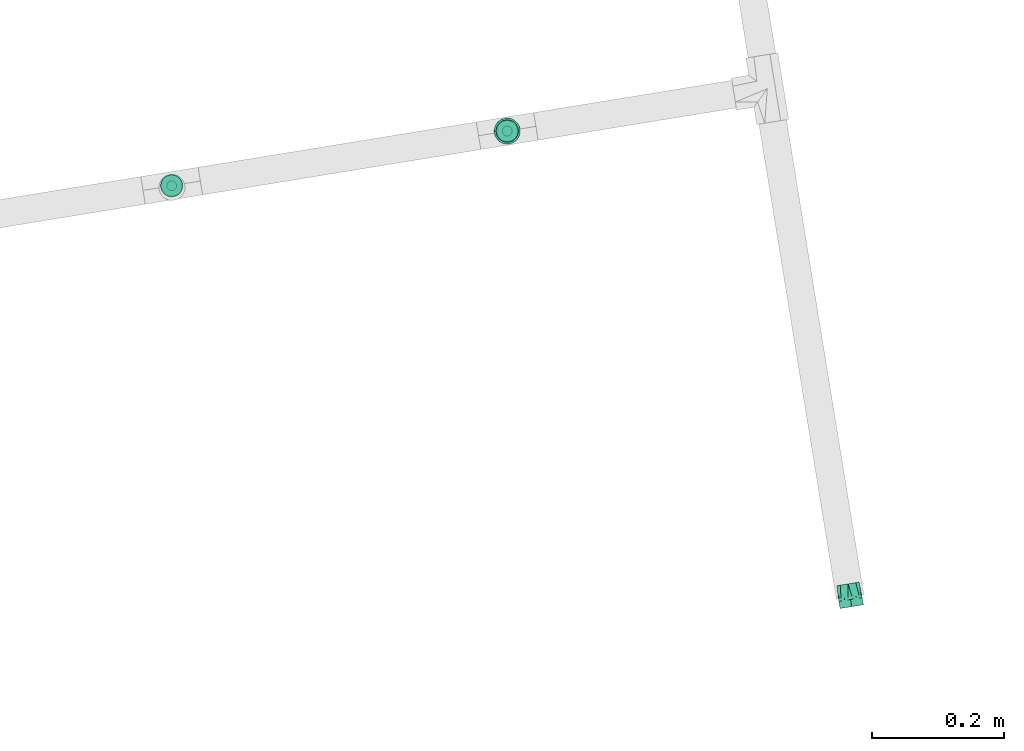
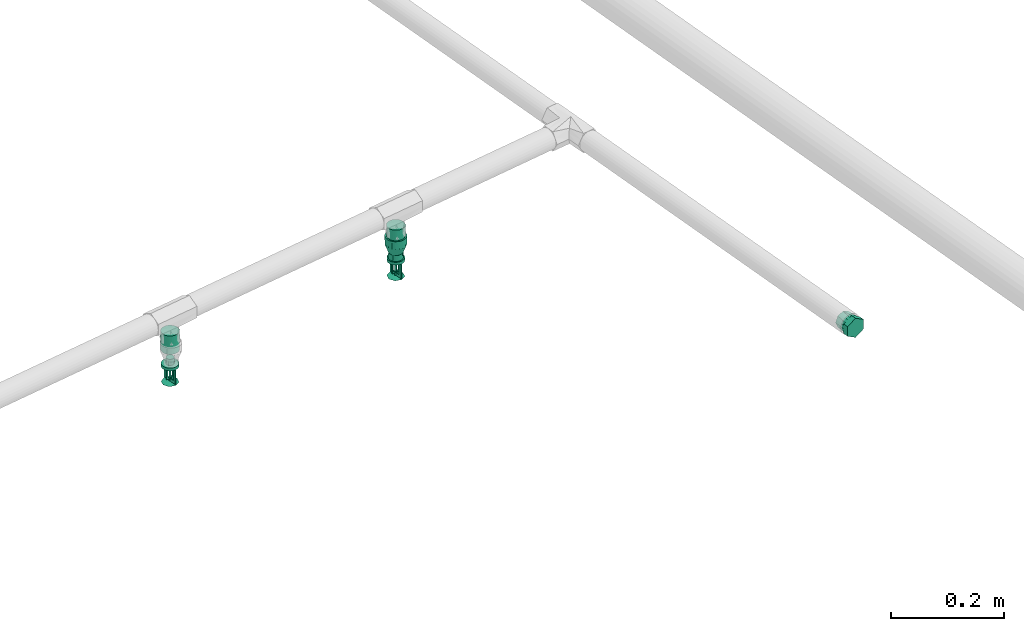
# One storey, part 29 of 46: 2 flow fittings, 2 flow segments, 2 flow terminals.
"""IFC2X3 building model written with IfcOpenShell, lengths in millimetres."""

import ifcopenshell
import ifcopenshell.guid

model = None  # the IFC model being written
_history = None  # IfcOwnerHistory: only IFC2X3 demands one
_inside = {}  # id of a spatial element -> (the spatial element, [elements in it])
_under = {}  # id of a project, library or spatial element -> (it, [spatial elements below it])
_declared = {}  # id of a project -> (the project, [libraries it declares])
_typed = {}  # id of a type object -> (the type object, [elements of that type])
_made_of = {}  # id of a material, layer set ... -> (it, [elements and type objects made of it])


def new_model(schema):
    """Start an empty IFC model of exactly this schema.

    Asked for "IFC4X3", IfcOpenShell would pick the latest addendum, in which some entities
    have other attributes; the version numbers below select the first issue.
    IFC2X3 requires an IfcOwnerHistory on every rooted entity: one is made here for all.
    """
    global model, _history
    if schema == "IFC4X3":
        model = ifcopenshell.file(schema_version=(4, 3, 0, 0))
    else:
        model = ifcopenshell.file(schema=schema)
    _inside.clear()
    _under.clear()
    _declared.clear()
    _typed.clear()
    _made_of.clear()
    _history = None
    if model.schema == "IFC2X3":
        org = make("IfcOrganization", Name="unknown")
        user = make(
            "IfcPersonAndOrganization",
            ThePerson=make("IfcPerson", FamilyName="unknown"),
            TheOrganization=org,
        )
        app = make(
            "IfcApplication",
            ApplicationDeveloper=org,
            Version="unknown",
            ApplicationFullName="unknown",
            ApplicationIdentifier="unknown",
        )
        _history = make(
            "IfcOwnerHistory",
            OwningUser=user,
            OwningApplication=app,
            ChangeAction="ADDED",
            CreationDate=0,
        )
    return model


def make(cls, **values):
    """One entity of the class cls with the attributes given. An attribute that is None is left unset."""
    return model.create_entity(
        cls, **{name: value for name, value in values.items() if value is not None}
    )


def entity(cls, *values):
    """Any entity or typed value of the class cls, its attributes in the order of the schema. None: left unset."""
    e = model.create_entity(cls)
    for i, value in enumerate(values):
        if value is not None:
            e[i] = value
    return e


def rooted(cls, **values):
    """An entity with a GlobalId (a new one), such as an element, a storey or a relation."""
    return make(cls, GlobalId=ifcopenshell.guid.new(), OwnerHistory=_history, **values)


def si_unit(unit_type, name, prefix=None):
    """IfcSIUnit, for example si_unit("LENGTHUNIT", "METRE", prefix="MILLI")."""
    return make("IfcSIUnit", UnitType=unit_type, Prefix=prefix, Name=name)


def converted_unit(unit_type, name, factor, base, dimensions=None, offset=None):
    """IfcConversionBasedUnit, such as the inch: factor (a typed value) times the base unit."""
    return make(
        "IfcConversionBasedUnit"
        if offset is None
        else "IfcConversionBasedUnitWithOffset",
        ConversionOffset=offset,
        Dimensions=None
        if dimensions is None
        else entity("IfcDimensionalExponents", *dimensions),
        UnitType=unit_type,
        Name=name,
        ConversionFactor=make(
            "IfcMeasureWithUnit", ValueComponent=factor, UnitComponent=base
        ),
    )


def derived_unit(unit_type, elements):
    """IfcDerivedUnit: a product of units, each with its exponent."""
    return make(
        "IfcDerivedUnit",
        Elements=[
            make("IfcDerivedUnitElement", Unit=unit, Exponent=power)
            for unit, power in elements
        ],
        UnitType=unit_type,
    )


def assignment(units):
    """IfcUnitAssignment: the units of a project."""
    return None if units is None else make("IfcUnitAssignment", Units=units)


def point(xyz):
    """IfcCartesianPoint."""
    return None if xyz is None else make("IfcCartesianPoint", Coordinates=xyz)


def direction(xyz):
    """IfcDirection."""
    return None if xyz is None else make("IfcDirection", DirectionRatios=xyz)


def frame(location, z_axis=None, x_axis=None):
    """IfcAxis2Placement3D, a coordinate frame: its origin and axes. An axis left out is left unset."""
    return make(
        "IfcAxis2Placement3D",
        Location=point(location),
        Axis=direction(z_axis),
        RefDirection=direction(x_axis),
    )


def frame_2d(location, x_axis=None):
    """IfcAxis2Placement2D, a coordinate frame in the plane: its origin and x axis."""
    return make(
        "IfcAxis2Placement2D", Location=point(location), RefDirection=direction(x_axis)
    )


def origin():
    """The frame at (0, 0, 0) with its axes left unset."""
    return frame((0.0, 0.0, 0.0))


def origin_with_axes():
    """The frame at (0, 0, 0) with the z axis (0, 0, 1) and the x axis (1, 0, 0) written out."""
    return frame((0.0, 0.0, 0.0), z_axis=(0.0, 0.0, 1.0), x_axis=(1.0, 0.0, 0.0))


def origin_2d_with_axis():
    """The frame at (0, 0) in the plane with the x axis (1, 0) written out."""
    return frame_2d((0.0, 0.0), x_axis=(1.0, 0.0))


def place(relative_to, where):
    """IfcLocalPlacement: puts the frame where relative to a parent placement (None: the world)."""
    return make(
        "IfcLocalPlacement", PlacementRelTo=relative_to, RelativePlacement=where
    )


def context(
    kind, dimensions, precision=None, world=None, true_north=None, identifier=None
):
    """IfcGeometricRepresentationContext, for example the 3D "Model" context."""
    return make(
        "IfcGeometricRepresentationContext",
        ContextIdentifier=identifier,
        ContextType=kind,
        CoordinateSpaceDimension=dimensions,
        Precision=precision,
        WorldCoordinateSystem=world,
        TrueNorth=true_north,
    )


def subcontext(parent, identifier, kind, view, scale=None):
    """IfcGeometricRepresentationSubContext, for example "Body" below "Model"."""
    return make(
        "IfcGeometricRepresentationSubContext",
        ContextIdentifier=identifier,
        ContextType=kind,
        ParentContext=parent,
        TargetScale=scale,
        TargetView=view,
    )


def project(units=None, contexts=None):
    """IfcProject with its units and contexts."""
    return rooted(
        "IfcProject",
        Name="project",
        RepresentationContexts=contexts,
        UnitsInContext=assignment(units),
    )


def spatial(cls, under=None, at=None, **own):
    """A site, building, storey or space (cls), placed at a placement, below another one or the project."""
    s = rooted(cls, ObjectPlacement=at, **own)
    if under is not None:
        _under.setdefault(under.id(), (under, []))[1].append(s)
    return s


def profile(cls, at=None, kind="AREA", **sizes):
    """A parametric profile (cls). Its sizes go by their IFC names, for example OverallWidth=200.0."""
    return make(cls, ProfileType=kind, Position=at, **sizes)


def circle(**sizes):
    """IfcCircleProfileDef."""
    return profile("IfcCircleProfileDef", **sizes)


def extrude(swept, where, along, depth):
    """IfcExtrudedAreaSolid: the profile swept, set in the frame where, extruded along a direction by depth."""
    return make(
        "IfcExtrudedAreaSolid",
        SweptArea=swept,
        Position=where,
        ExtrudedDirection=direction(along),
        Depth=depth,
    )


def faces_of(points, faces, orient=None, outer=None):
    """IfcFace entities. A face is a list of loops; a loop is a list of indices into points, from 0.

    orient and outer hold one flag for each loop. By default every Orientation is true, the
    first loop of a face is its IfcFaceOuterBound and the others are IfcFaceBound.
    """
    made = []
    for i, loops in enumerate(faces):
        bounds = []
        for j, loop in enumerate(loops):
            is_outer = j == 0 if outer is None else outer[i][j]
            bounds.append(
                make(
                    "IfcFaceOuterBound" if is_outer else "IfcFaceBound",
                    Bound=make("IfcPolyLoop", Polygon=[points[k] for k in loop]),
                    Orientation=True if orient is None else orient[i][j],
                )
            )
        made.append(make("IfcFace", Bounds=bounds))
    return made


def faceted_brep(points, faces, orient=None, outer=None, voids=None):
    """IfcFacetedBrep: a solid bounded by flat faces; with voids (closed shells), ...WithVoids."""
    shared = [point(p) for p in points]
    hull = make("IfcClosedShell", CfsFaces=faces_of(shared, faces, orient, outer))
    if voids is None:
        return make("IfcFacetedBrep", Outer=hull)
    return make(
        "IfcFacetedBrepWithVoids",
        Outer=hull,
        Voids=[
            make(cls, CfsFaces=faces_of(shared, fs, o, b)) for cls, fs, o, b in voids
        ],
    )


def shape(context_of_items, identifier, shape_type, items):
    """IfcShapeRepresentation: the items that make up one representation, for example the "Body"."""
    return make(
        "IfcShapeRepresentation",
        ContextOfItems=context_of_items,
        RepresentationIdentifier=identifier,
        RepresentationType=shape_type,
        Items=items,
    )


def source(mapping_origin, context_of_items, identifier, shape_type, items):
    """IfcRepresentationMap: a shape defined once, which mapped items show again and again."""
    return make(
        "IfcRepresentationMap",
        MappingOrigin=mapping_origin,
        MappedRepresentation=shape(context_of_items, identifier, shape_type, items),
    )


def transform(
    local_origin,
    x_axis=None,
    y_axis=None,
    z_axis=None,
    scale=None,
    scale2=None,
    scale3=None,
    uniform=True,
):
    """IfcCartesianTransformationOperator3D, or its non-uniform kind. x_axis, y_axis, z_axis: its Axis1, 2, 3."""
    if uniform:
        return make(
            "IfcCartesianTransformationOperator3D",
            Axis1=direction(x_axis),
            Axis2=direction(y_axis),
            LocalOrigin=point(local_origin),
            Scale=scale,
            Axis3=direction(z_axis),
        )
    return make(
        "IfcCartesianTransformationOperator3DnonUniform",
        Axis1=direction(x_axis),
        Axis2=direction(y_axis),
        LocalOrigin=point(local_origin),
        Scale=scale,
        Axis3=direction(z_axis),
        Scale2=scale2,
        Scale3=scale3,
    )


def mapped(mapping_source, mapping_target):
    """IfcMappedItem: shows the shape of a source again, moved by a transform."""
    return make(
        "IfcMappedItem", MappingSource=mapping_source, MappingTarget=mapping_target
    )


def material(Name=None, Category=None):
    """IfcMaterial."""
    return make("IfcMaterial", Name=Name, Category=Category)


def made_of(thing, what):
    """Note that an element or type object is made of a material, layer set ...; save() writes the relation."""
    if what is not None:
        _made_of.setdefault(what.id(), (what, []))[1].append(thing)
    return thing


def type_object(cls, material=None, **own):
    """A type object (cls), such as IfcWallType, which elements share."""
    return made_of(rooted(cls, **own), material)


def element(
    cls,
    number,
    at=None,
    inside=None,
    cuts=None,
    type_object=None,
    material=None,
    context=None,
    identifier="Body",
    shape_type=None,
    held_by="IfcProductDefinitionShape",
    body=None,
    shapes=None,
    **own,
):
    """One element of the class cls, such as IfcWall. Its Tag is "e" and its number.

    at: its placement. inside: the storey or other place that contains it. cuts: it is an
    opening in that element (IfcRelVoidsElement). A single representation is given by context,
    identifier, shape_type and body (its items); several are given by shapes. held_by: the class
    of the entity that holds the representations. save() writes the other relations.
    """
    e = rooted(cls, Tag="e%d" % number, ObjectPlacement=at, **own)
    if body is not None:
        shapes = [shape(context, identifier, shape_type, body)]
    if shapes is not None:
        e.Representation = make(held_by, Representations=shapes)
    if inside is not None:
        _inside.setdefault(inside.id(), (inside, []))[1].append(e)
    if cuts is not None:
        rooted(
            "IfcRelVoidsElement", RelatingBuildingElement=cuts, RelatedOpeningElement=e
        )
    if type_object is not None:
        _typed.setdefault(type_object.id(), (type_object, []))[1].append(e)
    return made_of(e, material)


def aggregate(whole, parts):
    """IfcRelAggregates: a whole, such as a stair, and the parts it consists of."""
    return rooted("IfcRelAggregates", RelatingObject=whole, RelatedObjects=parts)


def save(model, path):
    """Write the relations noted so far, then the file.

    IfcRelAggregates (storeys below a building ...), IfcRelContainedInSpatialStructure (elements
    in a storey), IfcRelDefinesByType, IfcRelAssociatesMaterial and IfcRelDeclares: one each for
    every whole, place, type object, material and project.
    """
    for whole, parts in _under.values():
        aggregate(whole, parts)
    for where, things in _inside.values():
        rooted(
            "IfcRelContainedInSpatialStructure",
            RelatedElements=things,
            RelatingStructure=where,
        )
    for kind, things in _typed.values():
        rooted("IfcRelDefinesByType", RelatedObjects=things, RelatingType=kind)
    for what, things in _made_of.values():
        rooted("IfcRelAssociatesMaterial", RelatedObjects=things, RelatingMaterial=what)
    for by, libraries in _declared.values():
        rooted("IfcRelDeclares", RelatingContext=by, RelatedDefinitions=libraries)
    model.write(path)


model = new_model("IFC2X3")

# Units and contexts
model_context = context("Model", 3, precision=0.01, world=origin(), true_north=direction((6.12323399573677e-17, 1.0)))
plan_context = context("Plan", 3, precision=1e-05, world=origin_with_axes())
body_context = subcontext(model_context, "Body", "Model", "MODEL_VIEW")
ifc_project = project(units=[converted_unit("PLANEANGLEUNIT", "DEGREE", entity("IfcPositiveLengthMeasure", 0.0174532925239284), si_unit("PLANEANGLEUNIT", "RADIAN"), dimensions=[0, 0, 0, 0, 0, 0, 0]), si_unit("AREAUNIT", "SQUARE_METRE"), si_unit("LENGTHUNIT", "METRE", prefix="MILLI"), si_unit("MASSUNIT", "GRAM", prefix="KILO"), si_unit("POWERUNIT", "WATT"), si_unit("PRESSUREUNIT", "PASCAL", prefix="KILO"), si_unit("FORCEUNIT", "NEWTON", prefix="KILO"), si_unit("ELECTRICVOLTAGEUNIT", "VOLT"), si_unit("ELECTRICCURRENTUNIT", "AMPERE"), si_unit("THERMODYNAMICTEMPERATUREUNIT", "DEGREE_CELSIUS"), si_unit("TIMEUNIT", "SECOND"), si_unit("VOLUMEUNIT", "CUBIC_METRE"), derived_unit("LINEARVELOCITYUNIT", [(si_unit("LENGTHUNIT", "METRE"), 1), (si_unit("TIMEUNIT", "SECOND"), -1)]), derived_unit("VOLUMETRICFLOWRATEUNIT", [(si_unit("VOLUMEUNIT", "CUBIC_METRE"), 1), (si_unit("TIMEUNIT", "SECOND"), -1)]), derived_unit("THERMALTRANSMITTANCEUNIT", [(si_unit("POWERUNIT", "WATT"), 1), (si_unit("THERMODYNAMICTEMPERATUREUNIT", "KELVIN"), -1), (si_unit("AREAUNIT", "SQUARE_METRE"), -1)]), derived_unit("SOUNDPRESSUREUNIT", [(si_unit("PRESSUREUNIT", "PASCAL"), 1)])], contexts=[model_context, plan_context])

# Site, building, storey
site_placement = place(None, frame((-3.09682673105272e-06, 1.93776733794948e-05, 0.0), z_axis=(0.0, 0.0, 1.0), x_axis=(-0.160806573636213, 0.986985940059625, 0.0)))
site = spatial("IfcSite", under=ifc_project, at=site_placement, Name="Default", CompositionType="ELEMENT")
building_placement = place(site_placement, frame((0.0, 0.0, 0.0), z_axis=(0.0, 0.0, 1.0), x_axis=(1.0, -2.77555756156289e-17, 0.0)))
building = spatial("IfcBuilding", under=site, at=building_placement, Name="Bygning (endres i Project Information)", CompositionType="ELEMENT")
storey_placement = place(building_placement, frame((0.0, 0.0, 51360.0000000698), z_axis=(0.0, 0.0, 1.0), x_axis=(1.0, -2.77555756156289e-17, 0.0)))
storey = spatial("IfcBuildingStorey", under=building, at=storey_placement, Name="H01-Nivå D+0,36", CompositionType="ELEMENT", Elevation=51360.0000000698)

# Flow fittings
ifc_material = material(Name="3320.001")
pipe_fitting_type_1 = type_object("IfcPipeFittingType", Name="RS_53_PIF_UN_Hexagon-Plug-EN10241_MC_gen:RS_53_PIF_UN_Hexagon-Plug-EN10241_MC_gen", PredefinedType="NOTDEFINED", material=ifc_material)
shared_shape_1 = source(origin(), body_context, "Body", "Brep", [
    faceted_brep([(24.0, -12.7279220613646, 12.7279220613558), (24.0, -15.5884572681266, 9.0), (24.0, -17.3866648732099, 4.65874281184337), (24.0, -18.0, 0.0), (24.0, -18.0, 10.3923048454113), (24.0, -9.0, 15.5884572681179), (24.0, 9.0, 15.5884572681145), (24.0, 4.65874281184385, 17.3866648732), (24.0, 0.0, 18.0), (24.0, -4.65874281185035, 17.3866648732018), (24.0, 0.0, 20.7846096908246), (24.0, 18.0, 0.0), (24.0, 18.0, -10.3923048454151), (24.0, 9.0, -15.5884572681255), (24.0, 12.7279220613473, -12.7279220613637), (24.0, 15.5884572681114, -9.0), (24.0, 17.3866648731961, -4.65874281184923), (24.0, 4.65874281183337, -17.3866648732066), (24.0, 0.0, -20.7846096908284), (24.0, -9.0, -15.5884572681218), (24.0, -4.65874281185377, -17.3866648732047), (24.0, 0.0, -18.0), (24.0, -17.3866648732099, -4.65874281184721), (24.0, -15.5884572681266, -9.0), (24.0, -12.7279220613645, -12.7279220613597), (24.0, -18.0, -10.3923048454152), (24.0, 18.0, 10.3923048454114), (24.0, 17.3866648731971, 4.65874281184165), (24.0, 15.5884572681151, 9.0), (24.0, 12.7279220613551, 12.7279220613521), (0.0, -12.0208152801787, -12.0208152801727), (0.0, -13.2656114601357, -9.01561146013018), (0.0, -14.5104076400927, -6.01040764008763), (0.0, -15.7552038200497, -3.00520382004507), (0.0, -17.0, 0.0), (0.0, -15.755203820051, 3.00520382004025), (0.0, -14.5104076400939, 6.01040764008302), (0.0, -13.2656114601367, 9.01561146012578), (0.0, -12.0208152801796, 12.0208152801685), (0.0, -9.01561146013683, 13.2656114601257), (0.0, -6.01040764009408, 14.5104076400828), (0.0, -3.00520382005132, 15.7552038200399), (0.0, 0.0, 17.0), (0.0, 3.00520382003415, 15.7552038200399), (0.0, 6.01040764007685, 14.5104076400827), (0.0, 9.01561146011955, 13.2656114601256), (0.0, 12.0208152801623, 12.0208152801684), (0.0, 13.2656114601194, 9.01561146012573), (0.0, 14.5104076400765, 6.01040764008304), (0.0, 15.7552038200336, 3.00520382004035), (0.0, 17.0, 0.0), (0.0, 15.7552038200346, -3.00520382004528), (0.0, 14.5104076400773, -6.0104076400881), (0.0, 13.2656114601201, -9.01561146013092), (0.0, 12.0208152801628, -12.0208152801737), (0.0, 9.01561146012, -13.2656114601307), (0.0, 6.01040764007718, -14.5104076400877), (0.0, 3.00520382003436, -15.7552038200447), (0.0, 0.0, -17.0), (0.0, -3.00520382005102, -15.7552038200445), (0.0, -6.01040764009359, -14.5104076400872), (0.0, -9.01561146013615, -13.26561146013), (19.9200000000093, -15.3516170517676, -8.86329487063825), (19.9200000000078, -16.9144602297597, -6.15638165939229), (19.9200000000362, 15.3517070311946, -8.8631390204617), (19.9200000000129, -11.3943605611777, -13.5793479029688), (19.920000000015, -8.99994724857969, -15.5884877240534), (19.9200000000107, -13.7887738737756, -11.5702080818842), (19.9200000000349, 13.7888913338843, -11.5700680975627), (19.920000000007, -17.5031274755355, -2.81789482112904), (19.9200000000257, 3.12576717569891, -17.7265219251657), (19.9200000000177, -6.06276723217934, -16.6575206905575), (19.9200000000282, 6.06293633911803, -16.6574591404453), (19.9200000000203, -3.12558721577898, -17.7265536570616), (19.920000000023, 8.99799599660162e-05, -17.7265377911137), (19.9200000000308, 9.00010550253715, -15.588396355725), (19.9200000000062, 18.0, 0.0), (19.9200000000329, 11.3944984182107, -13.5792322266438), (19.9200000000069, -17.4572301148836, -3.07819082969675), (19.9200000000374, 16.9145227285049, -6.15620994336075), (19.9200000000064, -18.0, 0.0), (19.9200000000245, 15.3517070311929, 8.86313902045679), (19.9200000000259, 16.9145227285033, 6.15620994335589), (19.9200000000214, 11.394498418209, 13.5792322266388), (19.9200000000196, 9.00010550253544, 15.58839635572), (19.9200000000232, 13.7888913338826, 11.5700680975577), (19.9200000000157, 3.12576717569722, 17.7265219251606), (19.9200000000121, -3.1255872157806, 17.7265536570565), (19.9200000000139, 8.99799583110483e-05, 17.7265377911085), (19.9200000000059, -16.9144602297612, 6.15638165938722), (19.9200000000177, 6.06293633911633, 16.6574591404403), (19.9200000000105, -6.06276723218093, 16.6575206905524), (19.920000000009, -8.99994724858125, 15.5884877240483), (19.9200000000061, -17.4572301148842, 3.07819082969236), (19.9200000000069, -13.7887738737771, 11.5702080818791), (19.9200000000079, -11.3943605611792, 13.5793479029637), (19.9200000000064, -15.3516170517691, 8.86329487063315), (35.0, -18.0, -10.3923048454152), (35.0, 0.0, -20.7846096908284), (35.0, 18.0, -10.3923048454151), (35.0, 18.0, 10.3923048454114), (35.0, 0.0, 20.7846096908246), (35.0, -18.0, 10.3923048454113)], [[[0, 1, 2, 3, 4, 5]], [[6, 7, 8, 9, 5, 10]], [[11, 12, 13, 14, 15, 16]], [[17, 13, 18, 19, 20, 21]], [[3, 22, 23, 24, 19, 25]], [[26, 11, 27, 28, 29, 6]], [[30, 31, 32, 33, 34, 35, 36, 37, 38, 39, 40, 41, 42, 43, 44, 45, 46, 47, 48, 49, 50, 51, 52, 53, 54, 55, 56, 57, 58, 59, 60, 61]], [[62, 63, 32]], [[52, 64, 53]], [[65, 61, 66]], [[30, 65, 67]], [[31, 67, 62]], [[63, 33, 32]], [[53, 68, 54]], [[69, 34, 33]], [[70, 58, 57]], [[71, 66, 60]], [[56, 72, 57]], [[62, 32, 31]], [[71, 59, 73]], [[73, 58, 70, 74]], [[56, 75, 72]], [[70, 57, 72]], [[75, 56, 55]], [[50, 76, 51]], [[59, 71, 60]], [[54, 68, 77]], [[33, 63, 78, 69]], [[51, 76, 79]], [[52, 79, 64]], [[30, 67, 31]], [[68, 53, 64]], [[79, 52, 51]], [[69, 80, 34]], [[61, 65, 30]], [[61, 60, 66]], [[59, 58, 73]], [[77, 55, 54]], [[77, 75, 55]], [[81, 82, 48]], [[81, 48, 47]], [[83, 45, 84]], [[46, 83, 85]], [[47, 85, 81]], [[86, 42, 87, 88]], [[35, 89, 36]], [[76, 49, 82]], [[87, 42, 41]], [[90, 84, 44]], [[40, 91, 41]], [[45, 83, 46]], [[90, 43, 86]], [[49, 76, 50]], [[40, 92, 91]], [[92, 40, 39]], [[34, 93, 35]], [[93, 34, 80]], [[43, 90, 44]], [[38, 94, 95]], [[93, 89, 35]], [[36, 89, 96]], [[46, 85, 47]], [[49, 48, 82]], [[94, 37, 96]], [[36, 96, 37]], [[87, 41, 91]], [[45, 44, 84]], [[43, 42, 86]], [[95, 39, 38]], [[95, 92, 39]], [[37, 94, 38]], [[78, 63, 22]], [[24, 67, 65]], [[67, 23, 63, 62]], [[73, 20, 71]], [[23, 22, 63]], [[3, 80, 69, 78]], [[65, 66, 19]], [[65, 19, 24]], [[23, 67, 24]], [[72, 75, 13]], [[72, 13, 17]], [[19, 66, 71]], [[19, 71, 20]], [[21, 20, 73]], [[17, 70, 72]], [[14, 77, 68]], [[16, 79, 76]], [[3, 78, 22]], [[79, 15, 68, 64]], [[16, 76, 11]], [[13, 77, 14]], [[21, 73, 74, 70]], [[21, 70, 17]], [[15, 14, 68]], [[75, 77, 13]], [[15, 79, 16]], [[27, 76, 82]], [[29, 85, 83]], [[85, 28, 82, 81]], [[86, 7, 90]], [[28, 27, 82]], [[27, 11, 76]], [[83, 84, 6]], [[83, 6, 29]], [[28, 85, 29]], [[91, 92, 5]], [[91, 5, 9]], [[6, 84, 90]], [[6, 90, 7]], [[8, 7, 86]], [[9, 87, 91]], [[0, 95, 94]], [[2, 89, 93]], [[89, 1, 94, 96]], [[1, 89, 2]], [[5, 95, 0]], [[8, 86, 88, 87]], [[8, 87, 9]], [[93, 80, 3]], [[1, 0, 94]], [[92, 95, 5]], [[93, 3, 2]], [[97, 98, 99, 100, 101, 102]], [[99, 98, 18, 13, 12]], [[100, 99, 12, 11, 26]], [[101, 100, 26, 6, 10]], [[102, 101, 10, 5, 4]], [[97, 102, 4, 3, 25]], [[98, 97, 25, 19, 18]]]),
])
flow_fitting_1_placement = place(storey_placement, frame((1001539.80520526, -346638.795665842, 3458.79999913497), z_axis=(0.0, 0.0, 1.0), x_axis=(-1.0, 2.77555756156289e-17, 0.0)))
element("IfcFlowFitting", 1, at=flow_fitting_1_placement, inside=storey, type_object=pipe_fitting_type_1, material=ifc_material, Name="RS_53_PIF_UN_Hexagon-Plug-EN10241_MC_gen:RS_53_PIF_UN_Hexagon-Plug-EN10241_MC_gen", ObjectType="RS_53_PIF_UN_Hexagon-Plug-EN10241_MC_gen:RS_53_PIF_UN_Hexagon-Plug-EN10241_MC_gen", context=body_context, shape_type="MappedRepresentation", body=[
    mapped(shared_shape_1, transform((0.0, 0.0, 0.0), scale=1.0)),
])
pipe_fitting_type_2 = type_object("IfcPipeFittingType", Name="RS_53_PIF_UN_Reducing-Socket-EN10241_MC_gen:RS_53_PIF_UN_Reducing-Socket-EN10241_MC_gen", PredefinedType="NOTDEFINED", material=ifc_material)
shared_shape_2 = source(origin(), body_context, "Body", "Brep", [
    faceted_brep([(0.0, 5.11167614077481, 19.0770350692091), (0.0, 9.87500000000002, 17.1040017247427), (0.0, 13.9653589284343, 13.9653589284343), (0.0, 17.1040017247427, 9.87499999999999), (0.0, 19.0770350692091, 5.11167614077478), (0.0, 19.75, 0.0), (0.0, 19.0770350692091, -5.1116761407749), (0.0, 17.1040017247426, -9.8750000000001), (0.0, 13.9653589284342, -13.9653589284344), (0.0, 9.87499999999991, -17.1040017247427), (0.0, 5.11167614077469, -19.0770350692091), (0.0, 0.0, -19.75), (0.0, -5.11167614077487, -19.0770350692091), (0.0, -9.87500000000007, -17.1040017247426), (0.0, -13.9653589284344, -13.9653589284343), (0.0, -17.1040017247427, -9.87499999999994), (0.0, -19.0770350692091, -5.11167614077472), (0.0, -19.75, 0.0), (0.0, -19.0770350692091, 5.11167614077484), (0.0, -17.1040017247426, 9.87500000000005), (0.0, -13.9653589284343, 13.9653589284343), (0.0, -9.87499999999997, 17.1040017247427), (0.0, -5.11167614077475, 19.0770350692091), (0.0, 0.0, 19.75), (17.0, -6.65118285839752, -18.277344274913), (17.0, -15.1289479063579, -12.6955675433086), (17.0, -16.8438814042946, -9.72538978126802), (17.0, -18.5588149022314, -6.7552120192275), (17.0, -9.87413131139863, -17.1045032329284), (17.0, -12.5015396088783, -14.9000353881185), (17.0, -19.1544074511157, -3.37760600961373), (17.0, -3.42823440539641, -19.4501853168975), (17.0, 3.43119786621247, -19.4496627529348), (17.0, 0.0014817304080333, -19.4499240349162), (17.0, -19.75, 0.0), (17.0, 6.65396758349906, -18.2763306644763), (17.0, 9.87673730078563, -17.1029985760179), (17.0, 18.5598439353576, -6.75238425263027), (17.0, 16.8453630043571, -9.7228232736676), (17.0, 15.1308820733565, -12.6932622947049), (17.0, 12.5038096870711, -14.8981304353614), (17.0, 19.75, 0.0), (17.0, 15.1308820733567, 12.6932622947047), (17.0, 16.8453630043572, 9.72282327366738), (17.0, 18.5598439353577, 6.75238425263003), (17.0, 9.87673730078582, 17.1029985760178), (17.0, 12.5038096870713, 14.8981304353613), (17.0, 3.43119786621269, 19.4496627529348), (17.0, 6.65396758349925, 18.2763306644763), (17.0, -3.4282344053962, 19.4501853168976), (17.0, 0.00148173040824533, 19.4499240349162), (17.0, -15.1289479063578, 12.6955675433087), (17.0, -6.65118285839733, 18.277344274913), (17.0, -9.87413131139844, 17.1045032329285), (17.0, -12.5015396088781, 14.9000353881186), (17.0, -19.1544074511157, 3.37760600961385), (17.0, -18.5588149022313, 6.75521201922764), (17.0, -16.8438814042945, 9.72538978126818), (34.0, 13.5000000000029, 0.0), (34.0, 12.6868795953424, -4.61444320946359), (34.0, -4.54589529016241, -12.4935366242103), (34.0, -2.34276817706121, -13.2951659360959), (34.0, 6.75195505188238, -11.6902139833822), (34.0, 0.00166747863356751, -13.2948718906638), (34.0, 2.34610313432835, -13.2945778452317), (34.0, 10.3432928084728, -8.67561489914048), (34.0, 8.54762393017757, -10.1829144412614), (34.0, 4.54902909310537, -12.492395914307), (34.0, 11.5150862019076, -6.64502905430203), (34.0, -6.74902240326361, -11.6919073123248), (34.0, -13.4999999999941, 0.0), (34.0, -13.0928608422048, -2.30881275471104), (34.0, -10.3411162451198, -8.6782091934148), (34.0, -8.54506932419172, -10.1850582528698), (34.0, -12.6857216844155, -4.61762550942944), (34.0, -11.5134189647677, -6.64791735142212), (34.0, -13.0928608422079, 2.30881275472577), (34.0, -12.6857216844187, 4.6176255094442), (34.0, 2.34610313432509, 13.2945778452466), (34.0, 4.54902909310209, 12.4923959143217), (34.0, -10.3411162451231, 8.67820919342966), (34.0, 0.00166747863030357, 13.2948718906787), (34.0, -6.74902240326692, 11.6919073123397), (34.0, -8.54506932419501, 10.1850582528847), (34.0, -11.5134189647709, 6.64791735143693), (34.0, -2.34276817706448, 13.2951659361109), (34.0, -4.5458952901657, 12.4935366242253), (34.0, 12.6868795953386, 4.61444320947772), (34.0, 11.5150862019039, 6.64502905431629), (34.0, 10.3432928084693, 8.67561489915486), (34.0, 6.7519550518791, 11.6902139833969), (34.0, 8.54762393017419, 10.1829144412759), (51.0, 3.49405710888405, -13.0399986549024), (51.0, 6.75000000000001, -11.6913429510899), (51.0, 9.5459415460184, -9.54594154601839), (51.0, 11.6913429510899, -6.74999999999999), (51.0, 13.0399986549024, -3.49405710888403), (51.0, 13.5, 0.0), (51.0, 13.0399986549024, 3.49405710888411), (51.0, 11.6913429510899, 6.75000000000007), (51.0, 9.54594154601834, 9.54594154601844), (51.0, 6.74999999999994, 11.69134295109), (51.0, 3.49405710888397, 13.0399986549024), (51.0, 0.0, 13.5), (51.0, -3.49405710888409, 13.0399986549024), (51.0, -6.75000000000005, 11.6913429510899), (51.0, -9.54594154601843, 9.54594154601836), (51.0, -11.6913429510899, 6.74999999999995), (51.0, -13.0399986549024, 3.49405710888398), (51.0, -13.5, 0.0), (51.0, -13.0399986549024, -3.49405710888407), (51.0, -11.6913429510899, -6.75000000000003), (51.0, -9.54594154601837, -9.54594154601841), (51.0, -6.74999999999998, -11.6913429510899), (51.0, -3.49405710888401, -13.0399986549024), (51.0, 0.0, -13.5)], [[[0, 1, 2, 3, 4, 5, 6, 7, 8, 9, 10, 11, 12, 13, 14, 15, 16, 17, 18, 19, 20, 21, 22, 23]], [[24, 13, 12]], [[15, 14, 25]], [[15, 25, 26, 27]], [[28, 29, 13]], [[16, 27, 30]], [[30, 17, 16]], [[15, 27, 16]], [[12, 31, 24]], [[25, 14, 29]], [[11, 32, 33, 31]], [[24, 28, 13]], [[13, 29, 14]], [[30, 34, 17]], [[32, 11, 10]], [[35, 9, 36]], [[7, 37, 38, 39]], [[9, 35, 10]], [[7, 6, 37]], [[8, 39, 40]], [[32, 10, 35]], [[7, 39, 8]], [[40, 36, 9]], [[6, 41, 37]], [[6, 5, 41]], [[11, 31, 12]], [[40, 9, 8]], [[41, 5, 4]], [[3, 2, 42]], [[3, 42, 43, 44]], [[45, 46, 1]], [[44, 41, 4]], [[0, 47, 48]], [[42, 2, 46]], [[23, 49, 50, 47]], [[1, 46, 2]], [[49, 23, 22]], [[19, 51, 20]], [[52, 21, 53]], [[3, 44, 4]], [[48, 45, 1]], [[54, 53, 21]], [[17, 34, 55]], [[21, 52, 22]], [[20, 51, 54]], [[49, 22, 52]], [[48, 1, 0]], [[17, 55, 18]], [[56, 19, 18]], [[18, 55, 56]], [[54, 21, 20]], [[57, 51, 19, 56]], [[23, 47, 0]], [[41, 58, 59]], [[60, 31, 61]], [[40, 62, 36]], [[63, 32, 64]], [[65, 39, 38]], [[64, 32, 35]], [[61, 33, 63]], [[37, 41, 59]], [[62, 40, 66]], [[40, 39, 66]], [[35, 36, 67]], [[65, 38, 68]], [[37, 68, 38]], [[64, 35, 67]], [[61, 31, 33]], [[69, 28, 24]], [[69, 24, 60]], [[70, 30, 71]], [[72, 29, 73]], [[30, 70, 34]], [[74, 27, 26]], [[68, 37, 59]], [[72, 25, 29]], [[27, 74, 71]], [[31, 60, 24]], [[29, 28, 73]], [[75, 26, 25]], [[67, 36, 62]], [[66, 39, 65]], [[27, 71, 30]], [[74, 26, 75]], [[73, 28, 69]], [[63, 33, 32]], [[75, 25, 72]], [[56, 76, 77]], [[48, 78, 79]], [[54, 51, 80]], [[81, 47, 50]], [[57, 56, 77]], [[52, 53, 82]], [[82, 53, 83]], [[55, 70, 76]], [[70, 55, 34]], [[84, 51, 57]], [[50, 85, 81]], [[56, 55, 76]], [[86, 49, 52]], [[83, 53, 54]], [[81, 78, 47]], [[48, 47, 78]], [[80, 51, 84]], [[49, 85, 50]], [[87, 44, 88]], [[87, 58, 41]], [[43, 42, 89]], [[57, 77, 84]], [[46, 45, 90]], [[85, 49, 86]], [[88, 44, 43]], [[54, 80, 83]], [[91, 42, 46]], [[52, 82, 86]], [[89, 42, 91]], [[87, 41, 44]], [[90, 45, 79]], [[46, 90, 91]], [[79, 45, 48]], [[43, 89, 88]], [[92, 93, 94, 95, 96, 97, 98, 99, 100, 101, 102, 103, 104, 105, 106, 107, 108, 109, 110, 111, 112, 113, 114, 115]], [[58, 97, 96]], [[95, 94, 65]], [[95, 65, 68, 59]], [[62, 66, 93]], [[59, 58, 96]], [[92, 64, 67]], [[65, 94, 66]], [[115, 61, 63, 64]], [[93, 66, 94]], [[67, 93, 92]], [[67, 62, 93]], [[95, 59, 96]], [[114, 61, 115]], [[111, 110, 74]], [[73, 113, 112]], [[109, 71, 110]], [[111, 74, 75, 72]], [[109, 70, 71]], [[60, 61, 114]], [[113, 69, 60]], [[111, 72, 112]], [[113, 60, 114]], [[112, 72, 73]], [[115, 64, 92]], [[71, 74, 110]], [[73, 69, 113]], [[86, 105, 104]], [[107, 106, 80]], [[107, 80, 84, 77]], [[82, 83, 105]], [[108, 77, 76]], [[76, 70, 109]], [[76, 109, 108]], [[104, 85, 86]], [[80, 106, 83]], [[103, 78, 81, 85]], [[91, 101, 100]], [[105, 83, 106]], [[86, 82, 105]], [[78, 103, 102]], [[79, 101, 90]], [[99, 87, 88, 89]], [[101, 79, 102]], [[99, 98, 87]], [[100, 89, 91]], [[78, 102, 79]], [[103, 85, 104]], [[99, 89, 100]], [[98, 58, 87]], [[107, 77, 108]], [[98, 97, 58]], [[91, 90, 101]]]),
])
flow_fitting_2_placement = place(storey_placement, frame((1002299.88520526, -346239.575122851, 3404.0), z_axis=(2.77555756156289e-17, 1.0, 0.0), x_axis=(0.0, 0.0, -1.0)))
element("IfcFlowFitting", 2, at=flow_fitting_2_placement, inside=storey, type_object=pipe_fitting_type_2, material=ifc_material, Name="RS_53_PIF_UN_Reducing-Socket-EN10241_MC_gen:RS_53_PIF_UN_Reducing-Socket-EN10241_MC_gen", ObjectType="RS_53_PIF_UN_Reducing-Socket-EN10241_MC_gen:RS_53_PIF_UN_Reducing-Socket-EN10241_MC_gen", context=body_context, shape_type="MappedRepresentation", body=[
    mapped(shared_shape_2, transform((0.0, 0.0, 0.0), scale=1.0)),
])

# Flow terminals
fire_suppression_terminal_type = type_object("IfcFireSuppressionTerminalType", Name="SSP K80 HIMLING:SP-15-K80-68DGR-RS", PredefinedType="NOTDEFINED", material=ifc_material)
shared_shape_3 = source(origin(), body_context, "Body", "Brep", [
    faceted_brep([(-2.5, 0.0, 57.0), (0.0, -2.5, 57.0), (2.5, 0.0, 57.0), (0.0, 2.5, 57.0), (0.0, 2.5, 53.0), (2.5, 0.0, 53.0), (0.0, -2.5, 53.0), (-2.5, 0.0, 53.0)], [[[0, 1, 2, 3]], [[4, 5, 6, 7]], [[3, 4, 7, 0]], [[2, 5, 4, 3]], [[1, 6, 5, 2]], [[0, 7, 6, 1]]]),
    faceted_brep([(1.0, 15.5, 51.0), (1.0, -15.5, 51.0), (1.0, -15.5, 19.0), (1.0, -10.5, 19.0), (1.0, -10.5, 45.0), (1.0, 10.5, 45.0), (1.0, 10.5, 19.0), (1.0, 15.5, 19.0), (-1.0, 15.5, 51.0), (-1.0, 15.5, 19.0), (-1.0, 10.5, 19.0), (-1.0, 10.5, 45.0), (-1.0, -10.5, 45.0), (-1.0, -10.5, 19.0), (-1.0, -15.5, 19.0), (-1.0, -15.5, 51.0)], [[[0, 1, 2, 3, 4, 5, 6, 7]], [[8, 9, 10, 11, 12, 13, 14, 15]], [[7, 9, 8, 0]], [[6, 10, 9, 7]], [[5, 11, 10, 6]], [[4, 12, 11, 5]], [[3, 13, 12, 4]], [[2, 14, 13, 3]], [[1, 15, 14, 2]], [[0, 8, 15, 1]]]),
    faceted_brep([(-8.5, -1.0, 45.0), (-8.5, -1.0, 19.0), (-5.5, -1.0, 19.0), (-5.5, -1.0, 42.0), (5.5, -1.0, 42.0), (5.5, -1.0, 19.0), (8.5, -1.0, 19.0), (8.5, -1.0, 45.0), (-8.5, 1.0, 45.0), (8.5, 1.0, 45.0), (8.5, 1.0, 19.0), (5.5, 1.0, 19.0), (5.5, 1.0, 42.0), (-5.5, 1.0, 42.0), (-5.5, 1.0, 19.0), (-8.5, 1.0, 19.0)], [[[0, 1, 2, 3, 4, 5, 6, 7]], [[8, 9, 10, 11, 12, 13, 14, 15]], [[7, 9, 8, 0]], [[6, 10, 9, 7]], [[5, 11, 10, 6]], [[4, 12, 11, 5]], [[3, 13, 12, 4]], [[2, 14, 13, 3]], [[1, 15, 14, 2]], [[0, 8, 15, 1]]]),
    faceted_brep([(16.0, 0.0, 53.0), (11.3137084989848, 11.3137084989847, 53.0), (0.0, 16.0, 53.0), (-11.3137084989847, 11.3137084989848, 53.0), (-16.0, 0.0, 53.0), (-11.3137084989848, -11.3137084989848, 53.0), (0.0, -16.0, 53.0), (11.3137084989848, -11.3137084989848, 53.0), (2.5, 0.0, 51.0), (0.0, -2.5, 51.0), (-2.5, 0.0, 51.0), (0.0, 2.5, 51.0)], [[[0, 1, 2, 3, 4, 5, 6, 7]], [[8, 9, 10, 11]], [[2, 11, 3]], [[10, 3, 11]], [[10, 4, 3]], [[1, 8, 11]], [[8, 1, 0]], [[2, 1, 11]], [[6, 9, 7]], [[8, 7, 9]], [[8, 0, 7]], [[5, 10, 9]], [[10, 5, 4]], [[6, 5, 9]]]),
    faceted_brep([(11.3137084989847, 11.3137084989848, 19.0), (8.0, 13.8564064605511, 19.0), (4.14110472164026, 15.4548132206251, 19.0), (0.0, 16.0, 19.0), (-4.1411047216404, 15.4548132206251, 19.0), (-8.0, 13.856406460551, 19.0), (-11.3137084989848, 11.3137084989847, 19.0), (-13.8564064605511, 8.0, 19.0), (-15.4548132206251, 4.14110472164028, 19.0), (-16.0, 0.0, 19.0), (-15.4548132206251, -4.14110472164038, 19.0), (-13.856406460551, -8.0, 19.0), (-11.3137084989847, -11.3137084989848, 19.0), (-8.0, -13.856406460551, 19.0), (-4.14110472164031, -15.4548132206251, 19.0), (0.0, -16.0, 19.0), (4.14110472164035, -15.4548132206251, 19.0), (8.0, -13.856406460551, 19.0), (11.3137084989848, -11.3137084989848, 19.0), (13.856406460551, -8.0, 19.0), (15.4548132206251, -4.14110472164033, 19.0), (16.0, 0.0, 19.0), (15.4548132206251, 4.14110472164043, 19.0), (13.856406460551, 8.0, 19.0), (0.0, -16.0, 13.0), (-4.14110472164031, -15.4548132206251, 13.0), (-8.0, -13.856406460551, 13.0), (-11.3137084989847, -11.3137084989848, 13.0), (-13.856406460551, -8.0, 13.0), (-15.4548132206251, -4.14110472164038, 13.0), (-16.0, 0.0, 13.0), (-15.4548132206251, 4.14110472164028, 13.0), (-13.8564064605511, 8.0, 13.0), (-11.3137084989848, 11.3137084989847, 13.0), (-8.0, 13.856406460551, 13.0), (-4.1411047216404, 15.4548132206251, 13.0), (0.0, 16.0, 13.0), (4.14110472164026, 15.4548132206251, 13.0), (8.0, 13.8564064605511, 13.0), (11.3137084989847, 11.3137084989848, 13.0), (13.856406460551, 8.0, 13.0), (15.4548132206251, 4.14110472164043, 13.0), (16.0, 0.0, 13.0), (15.4548132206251, -4.14110472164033, 13.0), (13.856406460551, -8.0, 13.0), (11.3137084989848, -11.3137084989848, 13.0), (8.0, -13.856406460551, 13.0), (4.14110472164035, -15.4548132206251, 13.0)], [[[0, 1, 2, 3, 4, 5, 6, 7, 8, 9, 10, 11, 12, 13, 14, 15, 16, 17, 18, 19, 20, 21, 22, 23]], [[24, 25, 26, 27, 28, 29, 30, 31, 32, 33, 34, 35, 36, 37, 38, 39, 40, 41, 42, 43, 44, 45, 46, 47]], [[30, 9, 8, 31]], [[31, 8, 7, 32]], [[34, 33, 6, 5]], [[6, 33, 32, 7]], [[35, 34, 5, 4]], [[35, 4, 3, 36]], [[36, 3, 2, 37]], [[37, 2, 1, 38]], [[40, 39, 0, 23]], [[0, 39, 38, 1]], [[41, 40, 23, 22]], [[41, 22, 21, 42]], [[42, 21, 20, 43]], [[43, 20, 19, 44]], [[46, 45, 18, 17]], [[18, 45, 44, 19]], [[47, 46, 17, 16]], [[47, 16, 15, 24]], [[24, 15, 14, 25]], [[25, 14, 13, 26]], [[28, 27, 12, 11]], [[12, 27, 26, 13]], [[29, 28, 11, 10]], [[29, 10, 9, 30]]]),
    faceted_brep([(-2.5, 0.0, 51.0), (0.0, -2.5, 51.0), (2.5, 0.0, 51.0), (0.0, 2.5, 51.0), (0.0, 2.5, 19.0), (2.5, 0.0, 19.0), (0.0, -2.5, 19.0), (-2.5, 0.0, 19.0)], [[[0, 1, 2, 3]], [[4, 5, 6, 7]], [[3, 4, 7, 0]], [[2, 5, 4, 3]], [[1, 6, 5, 2]], [[0, 7, 6, 1]]]),
    faceted_brep([(3.75000000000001, 6.49519052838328, 13.0), (1.94114283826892, 7.24444369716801, 13.0), (0.0, 7.5, 13.0), (-1.94114283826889, 7.24444369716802, 13.0), (-3.74999999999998, 6.4951905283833, 13.0), (-5.30330085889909, 5.30330085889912, 13.0), (-6.49519052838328, 3.75000000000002, 13.0), (-7.244443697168, 1.94114283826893, 13.0), (-7.5, 0.0, 13.0), (-7.24444369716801, -1.94114283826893, 13.0), (-6.49519052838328, -3.75000000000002, 13.0), (-5.3033008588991, -5.30330085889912, 13.0), (-3.74999999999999, -6.4951905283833, 13.0), (-1.94114283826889, -7.24444369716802, 13.0), (0.0, -7.5, 13.0), (1.94114283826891, -7.24444369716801, 13.0), (3.75000000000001, -6.49519052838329, 13.0), (5.30330085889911, -5.3033008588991, 13.0), (6.49519052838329, -3.75, 13.0), (7.24444369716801, -1.9411428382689, 13.0), (7.5, 0.0, 13.0), (7.24444369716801, 1.9411428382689, 13.0), (6.49519052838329, 3.75, 13.0), (5.30330085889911, 5.3033008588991, 13.0), (5.30330085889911, -5.3033008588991, 0.0), (3.75000000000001, -6.49519052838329, 0.0), (1.94114283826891, -7.24444369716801, 0.0), (0.0, -7.5, 0.0), (-1.94114283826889, -7.24444369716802, 0.0), (-3.74999999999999, -6.4951905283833, 0.0), (-5.3033008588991, -5.30330085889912, 0.0), (-6.49519052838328, -3.75000000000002, 0.0), (-7.24444369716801, -1.94114283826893, 0.0), (-7.5, 0.0, 0.0), (-7.244443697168, 1.94114283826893, 0.0), (-6.49519052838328, 3.75000000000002, 0.0), (-5.30330085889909, 5.30330085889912, 0.0), (-3.74999999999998, 6.4951905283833, 0.0), (-1.94114283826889, 7.24444369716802, 0.0), (0.0, 7.5, 0.0), (1.94114283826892, 7.24444369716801, 0.0), (3.75000000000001, 6.49519052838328, 0.0), (5.30330085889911, 5.3033008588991, 0.0), (6.49519052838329, 3.75, 0.0), (7.24444369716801, 1.9411428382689, 0.0), (7.5, 0.0, 0.0), (7.24444369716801, -1.9411428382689, 0.0), (6.49519052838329, -3.75, 0.0)], [[[0, 1, 2, 3, 4, 5, 6, 7, 8, 9, 10, 11, 12, 13, 14, 15, 16, 17, 18, 19, 20, 21, 22, 23]], [[24, 25, 26, 27, 28, 29, 30, 31, 32, 33, 34, 35, 36, 37, 38, 39, 40, 41, 42, 43, 44, 45, 46, 47]], [[33, 8, 7, 34]], [[34, 7, 6, 35]], [[37, 36, 5, 4]], [[5, 36, 35, 6]], [[38, 37, 4, 3]], [[38, 3, 2, 39]], [[39, 2, 1, 40]], [[40, 1, 0, 41]], [[43, 42, 23, 22]], [[23, 42, 41, 0]], [[44, 43, 22, 21]], [[44, 21, 20, 45]], [[45, 20, 19, 46]], [[46, 19, 18, 47]], [[25, 24, 17, 16]], [[17, 24, 47, 18]], [[26, 25, 16, 15]], [[26, 15, 14, 27]], [[27, 14, 13, 28]], [[28, 13, 12, 29]], [[31, 30, 11, 10]], [[11, 30, 29, 12]], [[32, 31, 10, 9]], [[32, 9, 8, 33]]]),
])
for number, where, z_axis, x_axis in (
    (3, (1002299.88520526, -345724.575122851, 3370.0), (0.0, 0.0, -1.0), (2.77555756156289e-17, 1.0, 0.0)),
    (4, (1002299.88520526, -346239.575122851, 3370.0), (0.0, 0.0, -1.0), (2.77555756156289e-17, 1.0, 0.0)),
):
    element("IfcFlowTerminal", number, at=place(storey_placement, frame(where, z_axis=z_axis, x_axis=x_axis)), inside=storey, type_object=fire_suppression_terminal_type, material=ifc_material, Name="SSP K80 HIMLING:SP-15-K80-68DGR-RS", ObjectType="SSP K80 HIMLING:SP-15-K80-68DGR-RS", context=body_context, shape_type="MappedRepresentation", body=[
        mapped(shared_shape_3, transform((0.0, 0.0, 0.0), scale=1.0)),
    ])

# Flow segments
pipe_segment_type = type_object("IfcPipeSegmentType", Name="Pipe Types:Stålrør sveist og gjenget", PredefinedType="NOTDEFINED", material=ifc_material)
flow_segment_1_placement = place(storey_placement, frame((0.0, 0.0, 0.0), z_axis=(0.0, 0.0, 1.0), x_axis=(1.0, -2.77555756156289e-17, 0.0)))
element("IfcFlowSegment", 5, at=flow_segment_1_placement, inside=storey, type_object=pipe_segment_type, Name="Pipe Types:Stålrør sveist og gjenget", ObjectType="Pipe Types:Stålrør sveist og gjenget", context=body_context, shape_type="SweptSolid", body=[
    extrude(circle(Radius=16.8500004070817, at=origin_2d_with_axis()), frame((1002299.88520526, -345724.575122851, 3387.0)), (0.0, 0.0, 1.0), 39.9000262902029),
])
flow_segment_2_placement = place(storey_placement, frame((0.0, 0.0, 0.0), z_axis=(0.0, 0.0, 1.0), x_axis=(1.0, -2.77555756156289e-17, 0.0)))
element("IfcFlowSegment", 6, at=flow_segment_2_placement, inside=storey, type_object=pipe_segment_type, Name="Pipe Types:Stålrør sveist og gjenget", ObjectType="Pipe Types:Stålrør sveist og gjenget", context=body_context, shape_type="SweptSolid", body=[
    extrude(circle(Radius=16.8500004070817, at=origin_2d_with_axis()), frame((1002299.88520526, -346239.575122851, 3387.0)), (0.0, 0.0, 1.0), 39.9000262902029),
])

save(model, "model.ifc")
